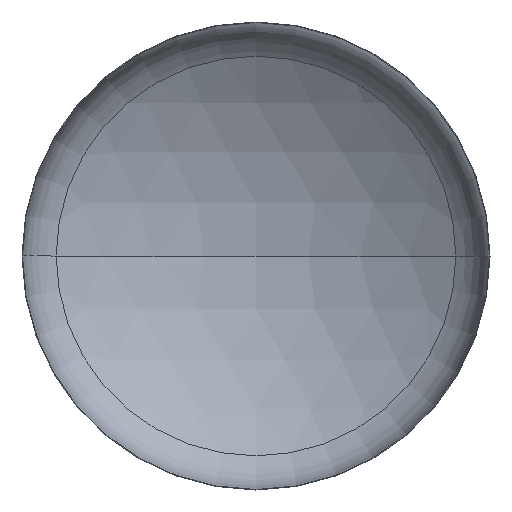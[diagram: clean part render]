
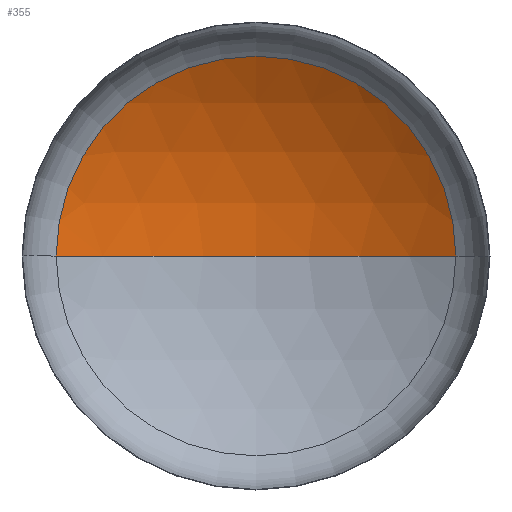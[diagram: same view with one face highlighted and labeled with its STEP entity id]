
A CAD part, front view. The second image highlights one B-rep face of the part: STEP entity #355.
In plain terms, the highlighted spherical face has radius 2880 mm.
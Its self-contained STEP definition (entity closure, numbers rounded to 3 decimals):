
#13 = DIRECTION ( 'NONE',  ( -1., 0., 0. ) ) ;
#14 = AXIS2_PLACEMENT_3D ( 'NONE', #352, #38, #249 ) ;
#17 = EDGE_LOOP ( 'NONE', ( #285, #156, #107 ) ) ;
#21 = DIRECTION ( 'NONE',  ( 0., 0., -1. ) ) ;
#24 = CARTESIAN_POINT ( 'NONE',  ( 0., -1946.099, 0. ) ) ;
#38 = DIRECTION ( 'NONE',  ( 0., 0., -1. ) ) ;
#58 = AXIS2_PLACEMENT_3D ( 'NONE', #230, #220, #221 ) ;
#60 = AXIS2_PLACEMENT_3D ( 'NONE', #24, #21, #13 ) ;
#69 = AXIS2_PLACEMENT_3D ( 'NONE', #200, #234, #390 ) ;
#83 = CIRCLE ( 'NONE', #58, 2880. ) ;
#102 = CARTESIAN_POINT ( 'NONE',  ( 0., 933.901, 0. ) ) ;
#107 = ORIENTED_EDGE ( 'NONE', *, *, #126, .T. ) ;
#126 = EDGE_CURVE ( 'NONE', #159, #133, #208, .T. ) ;
#133 = VERTEX_POINT ( 'NONE', #199 ) ;
#140 = EDGE_CURVE ( 'NONE', #407, #159, #329, .T. ) ;
#156 = ORIENTED_EDGE ( 'NONE', *, *, #140, .T. ) ;
#159 = VERTEX_POINT ( 'NONE', #210 ) ;
#162 = EDGE_CURVE ( 'NONE', #407, #133, #83, .T. ) ;
#199 = CARTESIAN_POINT ( 'NONE',  ( -1537.239, 489.327, 0. ) ) ;
#200 = CARTESIAN_POINT ( 'NONE',  ( 0., 489.327, 0. ) ) ;
#208 = CIRCLE ( 'NONE', #69, 1537.239 ) ;
#210 = CARTESIAN_POINT ( 'NONE',  ( 1537.239, 489.327, 0. ) ) ;
#220 = DIRECTION ( 'NONE',  ( 0., 0., 1. ) ) ;
#221 = DIRECTION ( 'NONE',  ( 1., 0., 0. ) ) ;
#227 = SPHERICAL_SURFACE ( 'NONE', #14, 2880. ) ;
#230 = CARTESIAN_POINT ( 'NONE',  ( 0., -1946.099, 0. ) ) ;
#234 = DIRECTION ( 'NONE',  ( 0., -1., 0. ) ) ;
#249 = DIRECTION ( 'NONE',  ( -1., 0., 0. ) ) ;
#285 = ORIENTED_EDGE ( 'NONE', *, *, #162, .F. ) ;
#329 = CIRCLE ( 'NONE', #60, 2880. ) ;
#344 = FACE_OUTER_BOUND ( 'NONE', #17, .T. ) ;
#352 = CARTESIAN_POINT ( 'NONE',  ( 0., -1946.099, 0. ) ) ;
#355 = ADVANCED_FACE ( 'NONE', ( #344 ), #227, .F. ) ;
#390 = DIRECTION ( 'NONE',  ( 1., 0., 0. ) ) ;
#407 = VERTEX_POINT ( 'NONE', #102 ) ;
